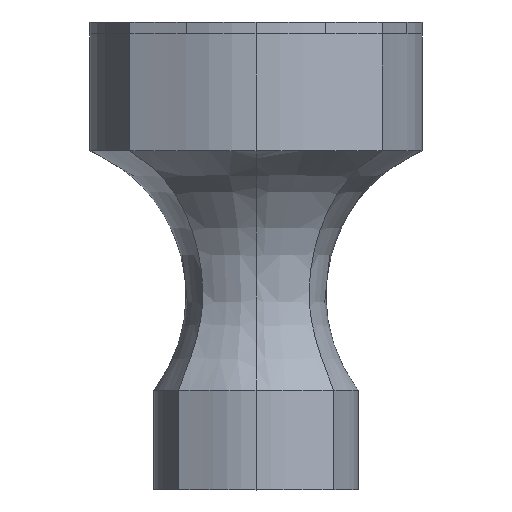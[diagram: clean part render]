
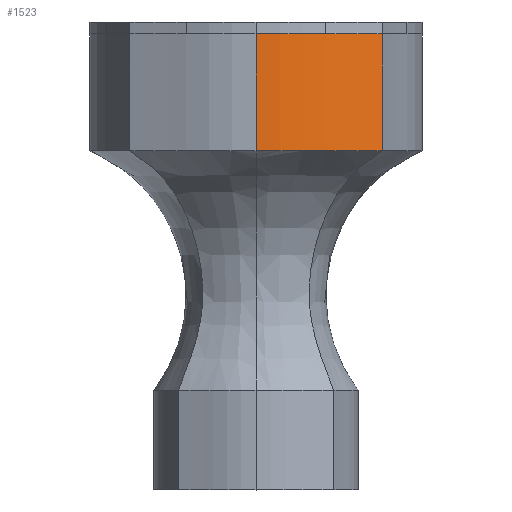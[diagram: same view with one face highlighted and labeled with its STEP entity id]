
A CAD part, top view. The second image highlights one B-rep face of the part: STEP entity #1523.
In plain terms, the highlighted free-form (B-spline) face has degree [3, 1] with [6, 3] control points.
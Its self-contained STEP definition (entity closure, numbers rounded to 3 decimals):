
#15 = ORIENTED_EDGE ( 'NONE', *, *, #3157, .T. ) ;
#18 = EDGE_CURVE ( 'NONE', #2395, #881, #653, .T. ) ;
#32 = CARTESIAN_POINT ( 'NONE',  ( 1.638, 5.51, 0. ) ) ;
#77 = DIRECTION ( 'NONE',  ( 0., -1., 0. ) ) ;
#105 = ORIENTED_EDGE ( 'NONE', *, *, #2191, .T. ) ;
#106 = AXIS2_PLACEMENT_3D ( 'NONE', #332, #564, #2470 ) ;
#147 = CARTESIAN_POINT ( 'NONE',  ( 1.638, 5.51, 4.04 ) ) ;
#210 = VERTEX_POINT ( 'NONE', #1328 ) ;
#223 = CARTESIAN_POINT ( 'NONE',  ( 0., 5.69, 0. ) ) ;
#261 = CARTESIAN_POINT ( 'NONE',  ( 4.32, 4.32, 0. ) ) ;
#332 = CARTESIAN_POINT ( 'NONE',  ( 24.931, 54.078, 0. ) ) ;
#380 = CARTESIAN_POINT ( 'NONE',  ( 0., 5.69, 0. ) ) ;
#430 = CARTESIAN_POINT ( 'NONE',  ( 3.022, 4.872, 4. ) ) ;
#431 = CARTESIAN_POINT ( 'NONE',  ( 0., 5.69, 4. ) ) ;
#487 = CARTESIAN_POINT ( 'NONE',  ( 0.825, 5.644, 4. ) ) ;
#532 = VERTEX_POINT ( 'NONE', #1178 ) ;
#548 = DIRECTION ( 'NONE',  ( 0., 0., 1. ) ) ;
#551 = EDGE_CURVE ( 'NONE', #881, #1796, #1850, .T. ) ;
#564 = DIRECTION ( 'NONE',  ( 0., 0., -1. ) ) ;
#566 = VERTEX_POINT ( 'NONE', #907 ) ;
#635 = AXIS2_PLACEMENT_3D ( 'NONE', #3001, #2462, #77 ) ;
#643 = CARTESIAN_POINT ( 'NONE',  ( 3.668, 4.59, 4.04 ) ) ;
#653 = LINE ( 'NONE', #261, #1258 ) ;
#662 = CARTESIAN_POINT ( 'NONE',  ( 3.668, 4.59, 4. ) ) ;
#680 = CARTESIAN_POINT ( 'NONE',  ( 0.82, 5.69, 0. ) ) ;
#881 = VERTEX_POINT ( 'NONE', #1886 ) ;
#907 = CARTESIAN_POINT ( 'NONE',  ( 0., 5.69, 0. ) ) ;
#910 = CARTESIAN_POINT ( 'NONE',  ( 3.022, 4.872, 0. ) ) ;
#929 = CARTESIAN_POINT ( 'NONE',  ( 3.668, 4.59, 0. ) ) ;
#992 = B_SPLINE_SURFACE_WITH_KNOTS ( 'NONE', 3, 1, ( 
 ( #1433, #1450, #3276 ),
 ( #929, #662, #643 ),
 ( #910, #430, #2267 ),
 ( #2481, #2742, #147 ),
 ( #680, #3293, #2000 ),
 ( #380, #1982, #1484 ) ),
 .UNSPECIFIED., .F., .F., .F.,
 ( 4, 2, 4 ),
 ( 2, 1, 2 ),
 ( 0., 0.463, 1. ),
 ( 0., 1., 1.01 ),
 .UNSPECIFIED. ) ;
#1178 = CARTESIAN_POINT ( 'NONE',  ( 0., 5.69, 4. ) ) ;
#1219 = ORIENTED_EDGE ( 'NONE', *, *, #18, .F. ) ;
#1258 = VECTOR ( 'NONE', #548, 1000. ) ;
#1287 = DIRECTION ( 'NONE',  ( 0., 0., 1. ) ) ;
#1298 = CARTESIAN_POINT ( 'NONE',  ( 1.621, 5.469, 4. ) ) ;
#1325 = VECTOR ( 'NONE', #1287, 1000. ) ;
#1328 = CARTESIAN_POINT ( 'NONE',  ( 2.382, 5.167, 0. ) ) ;
#1336 = ORIENTED_EDGE ( 'NONE', *, *, #2536, .F. ) ;
#1355 = CARTESIAN_POINT ( 'NONE',  ( 2.382, 5.167, 0. ) ) ;
#1433 = CARTESIAN_POINT ( 'NONE',  ( 4.32, 4.32, 0. ) ) ;
#1439 = ORIENTED_EDGE ( 'NONE', *, *, #551, .F. ) ;
#1450 = CARTESIAN_POINT ( 'NONE',  ( 4.32, 4.32, 4. ) ) ;
#1456 = ORIENTED_EDGE ( 'NONE', *, *, #2338, .T. ) ;
#1484 = CARTESIAN_POINT ( 'NONE',  ( 0., 5.69, 4.04 ) ) ;
#1523 = ADVANCED_FACE ( 'NONE', ( #2252 ), #992, .T. ) ;
#1538 = CARTESIAN_POINT ( 'NONE',  ( 0.413, 5.69, 4. ) ) ;
#1796 = VERTEX_POINT ( 'NONE', #2370 ) ;
#1850 = CIRCLE ( 'NONE', #635, 53.858 ) ;
#1886 = CARTESIAN_POINT ( 'NONE',  ( 4.32, 4.32, 4. ) ) ;
#1982 = CARTESIAN_POINT ( 'NONE',  ( 0., 5.69, 4. ) ) ;
#2000 = CARTESIAN_POINT ( 'NONE',  ( 0.82, 5.69, 4.04 ) ) ;
#2056 = LINE ( 'NONE', #223, #1325 ) ;
#2089 = CARTESIAN_POINT ( 'NONE',  ( 4.32, 4.32, 0. ) ) ;
#2156 = CARTESIAN_POINT ( 'NONE',  ( 0.82, 5.69, 0. ) ) ;
#2191 = EDGE_CURVE ( 'NONE', #2395, #210, #2269, .T. ) ;
#2227 = EDGE_LOOP ( 'NONE', ( #1456, #1336, #1439, #1219, #105, #15 ) ) ;
#2252 = FACE_OUTER_BOUND ( 'NONE', #2227, .T. ) ;
#2267 = CARTESIAN_POINT ( 'NONE',  ( 3.022, 4.872, 4.04 ) ) ;
#2269 = CIRCLE ( 'NONE', #106, 53.858 ) ;
#2324 = CARTESIAN_POINT ( 'NONE',  ( 2.382, 5.167, 4. ) ) ;
#2338 = EDGE_CURVE ( 'NONE', #566, #532, #2056, .T. ) ;
#2370 = CARTESIAN_POINT ( 'NONE',  ( 2.382, 5.167, 4. ) ) ;
#2395 = VERTEX_POINT ( 'NONE', #2089 ) ;
#2462 = DIRECTION ( 'NONE',  ( 0., 0., -1. ) ) ;
#2470 = DIRECTION ( 'NONE',  ( 0., -1., 0. ) ) ;
#2481 = CARTESIAN_POINT ( 'NONE',  ( 1.638, 5.51, 0. ) ) ;
#2536 = EDGE_CURVE ( 'NONE', #1796, #532, #3062, .T. ) ;
#2742 = CARTESIAN_POINT ( 'NONE',  ( 1.638, 5.51, 4. ) ) ;
#2895 = B_SPLINE_CURVE_WITH_KNOTS ( 'NONE', 3,
 ( #1355, #32, #2156, #3215 ),
 .UNSPECIFIED., .F., .F.,
 ( 4, 4 ),
 ( 0., 0.002 ),
 .UNSPECIFIED. ) ;
#3001 = CARTESIAN_POINT ( 'NONE',  ( 24.931, 54.078, 4. ) ) ;
#3062 = B_SPLINE_CURVE_WITH_KNOTS ( 'NONE', 3,
 ( #2324, #3409, #1298, #487, #1538, #431 ),
 .UNSPECIFIED., .F., .F.,
 ( 4, 2, 4 ),
 ( 0., 0.001, 0.002 ),
 .UNSPECIFIED. ) ;
#3157 = EDGE_CURVE ( 'NONE', #210, #566, #2895, .T. ) ;
#3215 = CARTESIAN_POINT ( 'NONE',  ( 0., 5.69, 0. ) ) ;
#3276 = CARTESIAN_POINT ( 'NONE',  ( 4.32, 4.32, 4.04 ) ) ;
#3293 = CARTESIAN_POINT ( 'NONE',  ( 0.82, 5.69, 4. ) ) ;
#3409 = CARTESIAN_POINT ( 'NONE',  ( 2.007, 5.34, 4. ) ) ;
